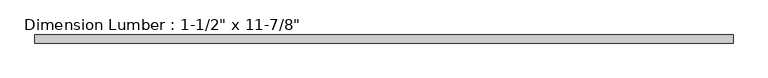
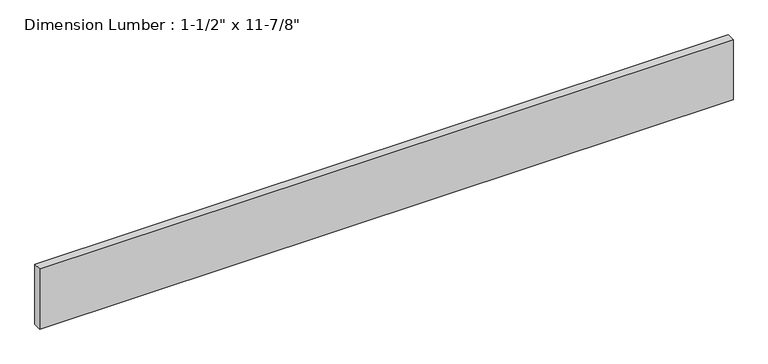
"""IFC4 building model written with IfcOpenShell, lengths in millimetres: beam geometry."""

from ifc_helpers import new_model, si_unit, frame, origin, place, context, project, spatial, polyline, outline, extrude, source, transform, mapped, element, save


def beam_3a365810(model_context):
    return source(origin(), model_context, "Body", "SweptSolid", [
        extrude(outline(polyline([(1638.3, 19.05), (1638.3, -19.05), (-1638.3, -19.05), (-1638.3, 19.05), (1638.3, 19.05)])), frame((0.0, 0.0, -150.8125), z_axis=(0.0, 0.0, 1.0), x_axis=(1.0, 0.0, 0.0)), (0.0, 0.0, 1.0), 301.625),
    ])


if __name__ == "__main__":
    model = new_model("IFC4")
    model_context = context("Model", 3, world=origin())
    ifc_project = project(units=[si_unit("LENGTHUNIT", "METRE", prefix="MILLI")], contexts=[model_context])
    site = spatial("IfcSite", under=ifc_project)
    building = spatial("IfcBuilding", under=site)
    placement = place(None, origin())
    beam_shape = beam_3a365810(model_context)
    element("IfcBeam", 1, ObjectType="Dimension Lumber : 1-1/2\" x 11-7/8\"", at=placement, inside=building, context=model_context, shape_type="MappedRepresentation", body=[
        mapped(beam_shape, transform((0.0, 0.0, 0.0), x_axis=(1.0, 0.0, 0.0), y_axis=(0.0, 1.0, 0.0), z_axis=(0.0, 0.0, 1.0))),
    ])
    save(model, "model.ifc")
